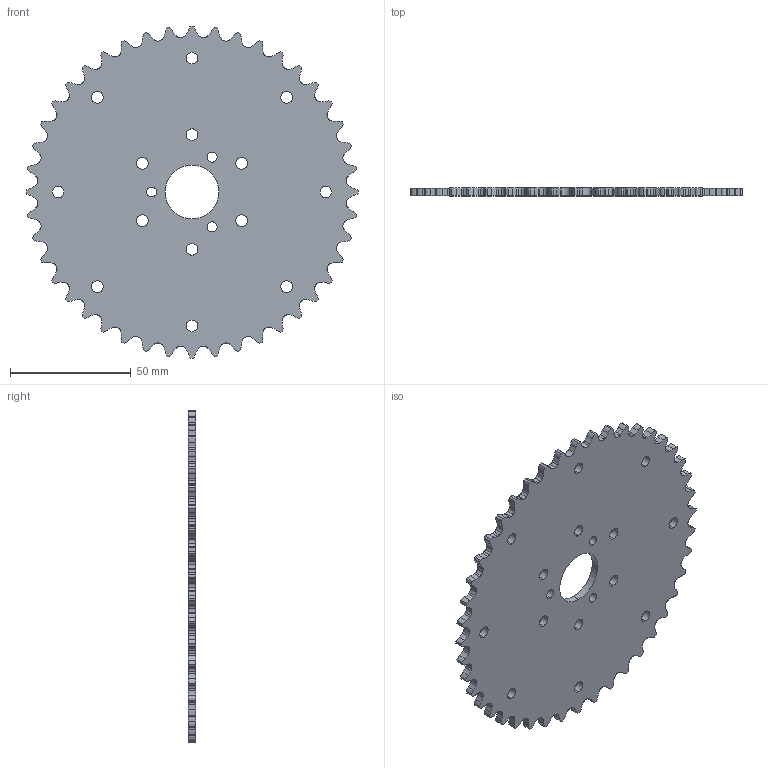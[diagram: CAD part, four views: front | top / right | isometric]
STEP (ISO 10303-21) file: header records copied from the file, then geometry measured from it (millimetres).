
FILE_DESCRIPTION (( 'STEP AP203' ), '1' );
FILE_NAME ('IFI-SPROCKET-35A44 RevB.STEP', '2006-11-03T17:43:43', ( 'Innovation First, Inc.' ), ( 'Innovation First, Inc.' ), 'SwSTEP 2.0', 'SolidWorks 2006052', '' );
FILE_SCHEMA (( 'CONFIG_CONTROL_DESIGN' ));
Length unit declared in the file: inch
Products named in the file (1): IFI-SPROCKET-35A44 RevB
Bounding box: 137.75 x 3.17 x 137.75 mm (x, y, z)
Volume: 41483.2 mm3; surface area: 29157.2 mm2
Topology: 1 solids, 1 shells, 452 faces, 1350 edges, 900 vertices
Faces by surface type: cylinder 405, plane 46, bspline 1
Entity records: 15850 total; most frequent: DIRECTION 3059, CARTESIAN_POINT 2731, ORIENTED_EDGE 2700, EDGE_CURVE 1350, AXIS2_PLACEMENT_3D 1262, VERTEX_POINT 900, CIRCLE 810, LINE 535
